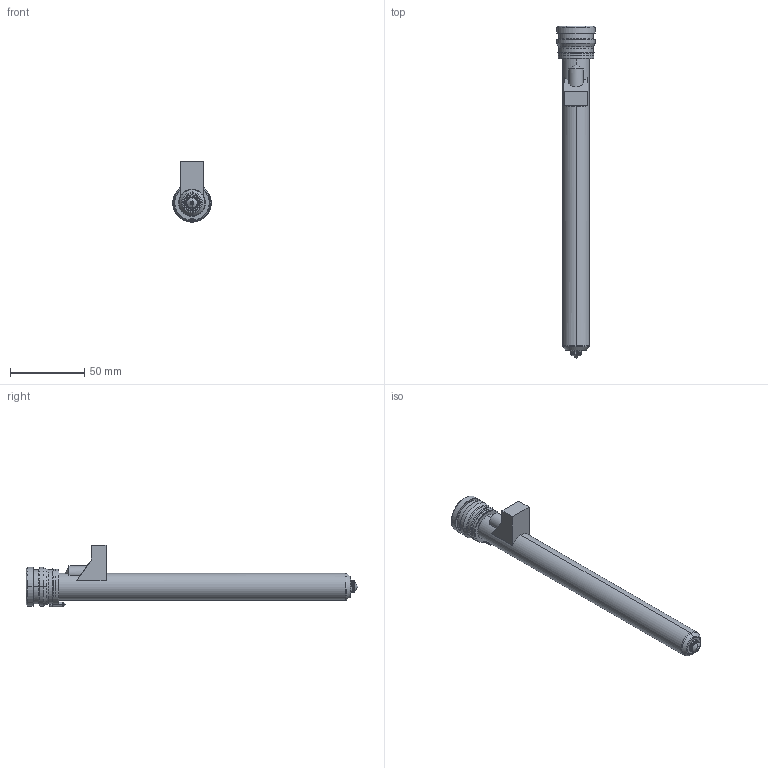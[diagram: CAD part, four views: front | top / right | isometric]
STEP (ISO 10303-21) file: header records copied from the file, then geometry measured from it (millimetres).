
FILE_DESCRIPTION((''),'2;1');
FILE_NAME('MPN-08-24-TS8-206-M','2026-02-05T13:25:35',('UPTIO'),('Thermoplay S.p.A.'),'CREO PARAMETRIC BY PTC INC, 2023494','CREO PARAMETRIC BY PTC INC, 2023494','');
FILE_SCHEMA(('CONFIG_CONTROL_DESIGN','SHAPE_APPEARANCE_LAYERS_GROUPS'));
Length unit declared in the file: millimetre
Products named in the file (1): MPN-08-24-TS8-206-M
Bounding box: 26 x 224 x 41.5 mm (x, y, z)
Volume: 41548.8 mm3; surface area: 55881.3 mm2
Topology: 2 solids, 5 shells, 532 faces, 1371 edges, 843 vertices
Faces by surface type: cylinder 172, plane 146, bspline 77, torus 62, cone 58, sphere 11, extrusion 6
Entity records: 27988 total; most frequent: CARTESIAN_POINT 12349, ORIENTED_EDGE 2720, DIRECTION 2456, EDGE_CURVE 1360, AXIS2_PLACEMENT_3D 960, VERTEX_POINT 843, EDGE_LOOP 561, VECTOR 536
